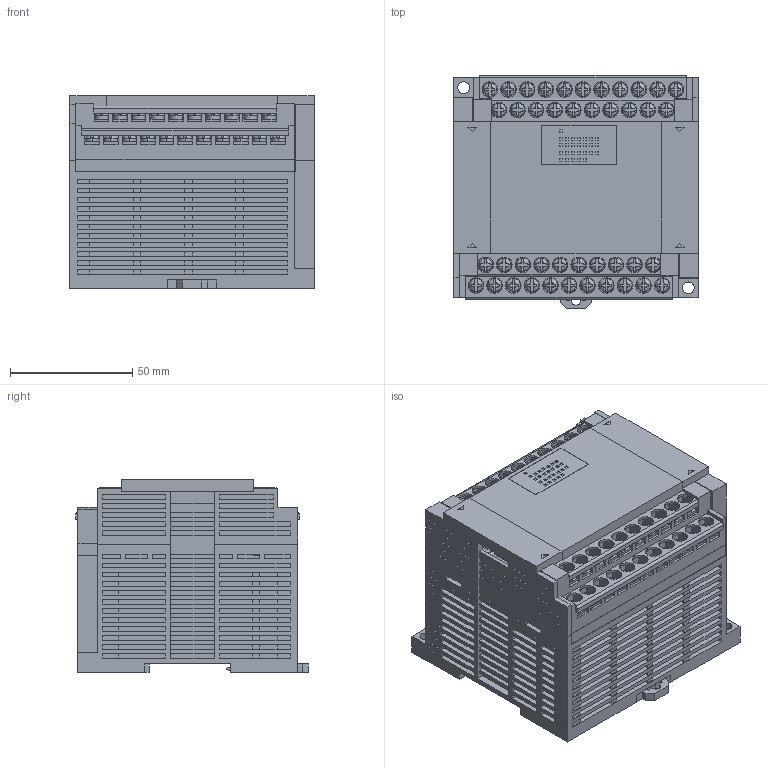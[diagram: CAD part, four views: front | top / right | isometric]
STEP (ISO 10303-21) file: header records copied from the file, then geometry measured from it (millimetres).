
FILE_DESCRIPTION (( 'STEP AP214' ), '1' );
FILE_NAME ('afpx-e30.step', '2009-08-28T01:50:43', ( '' ), ( 'PanasonicElectricWorks' ), '', '', '' );
FILE_SCHEMA (( 'AUTOMOTIVE_DESIGN' ));
Length unit declared in the file: millimetre
Products named in the file (1): afpx-e30
Bounding box: 100 x 95.4 x 79 mm (x, y, z)
Volume: 604843.2 mm3; surface area: 88500.6 mm2
Topology: 3 solids, 3 shells, 3100 faces, 8600 edges, 5612 vertices
Faces by surface type: plane 2805, cylinder 211, torus 84
Entity records: 133915 total; most frequent: CARTESIAN_POINT 20285, ORIENTED_EDGE 17200, DIRECTION 15332, EDGE_CURVE 8600, VECTOR 7150, LINE 7150, VERTEX_POINT 5612, AXIS2_PLACEMENT_3D 4091
